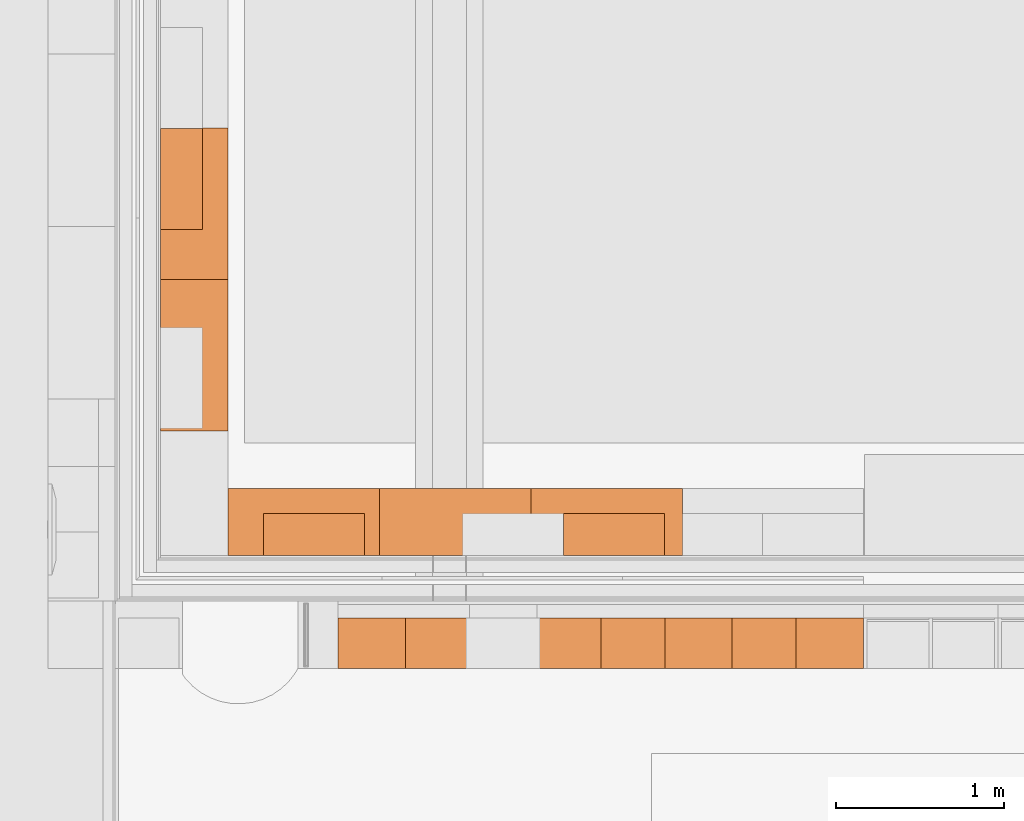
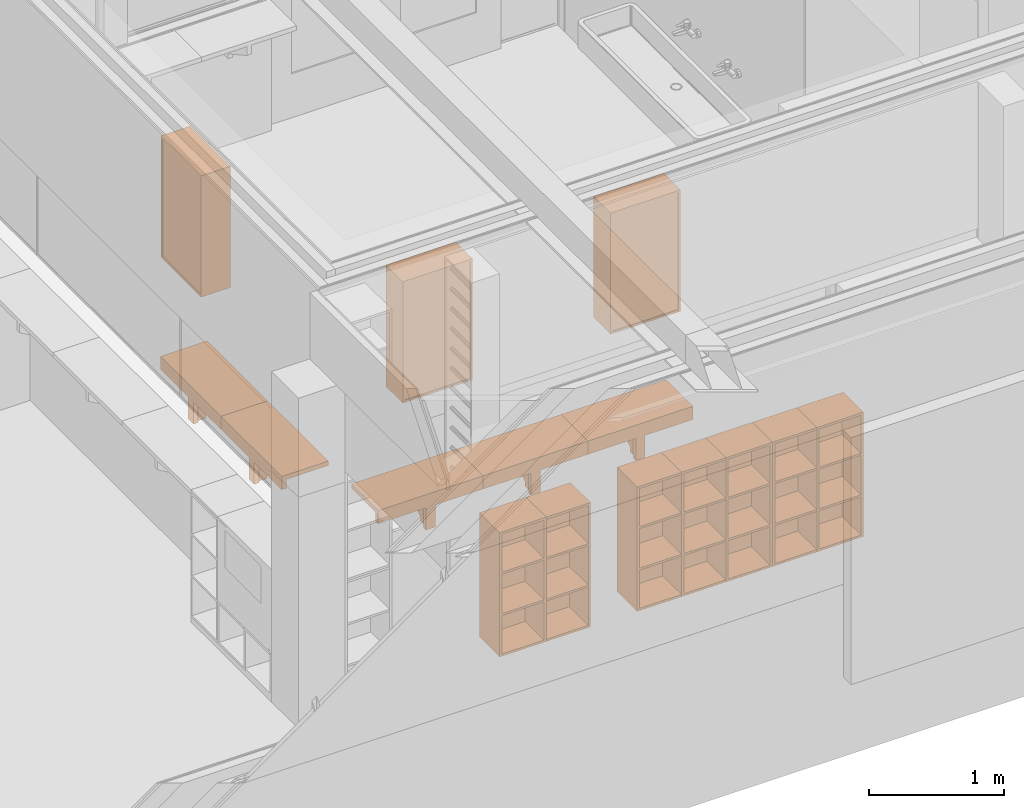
# One storey, part 116 of 137: 15 proxies.
"""IFC2X3 building model written with IfcOpenShell, lengths in millimetres."""

from ifc_helpers import new_model, entity, si_unit, converted_unit, derived_unit, money_unit, direction, frame, origin_with_axes, place, context, subcontext, project, spatial, faceted_brep, source, transform, mapped, type_object, type_shapes, element, save


model = new_model("IFC2X3")

# Units and contexts
model_context = context("Model", 3, precision=0.01, world=origin_with_axes(), true_north=direction((0.0, 1.0)))
body_context = subcontext(model_context, "Body", "Model", "MODEL_VIEW")
ifc_project = project(units=[si_unit("LENGTHUNIT", "METRE", prefix="MILLI"), si_unit("AREAUNIT", "SQUARE_METRE"), si_unit("VOLUMEUNIT", "CUBIC_METRE"), converted_unit("PLANEANGLEUNIT", "DEGREE", entity("IfcPlaneAngleMeasure", 0.0174532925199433), si_unit("PLANEANGLEUNIT", "RADIAN"), dimensions=[0, 0, 0, 0, 0, 0, 0]), money_unit("EUR"), converted_unit("TIMEUNIT", "Year", entity("IfcTimeMeasure", 31556926.0), si_unit("TIMEUNIT", "SECOND"), dimensions=[0, 0, 1, 0, 0, 0, 0]), si_unit("MASSUNIT", "GRAM", prefix="KILO"), si_unit("THERMODYNAMICTEMPERATUREUNIT", "DEGREE_CELSIUS"), si_unit("LUMINOUSINTENSITYUNIT", "LUMEN"), si_unit("ENERGYUNIT", "JOULE", prefix="MEGA"), derived_unit("THERMALCONDUCTANCEUNIT", [(si_unit("POWERUNIT", "WATT"), 1), (si_unit("LENGTHUNIT", "METRE"), -1), (si_unit("THERMODYNAMICTEMPERATUREUNIT", "KELVIN"), -1)]), derived_unit("SPECIFICHEATCAPACITYUNIT", [(si_unit("ENERGYUNIT", "JOULE"), 1), (si_unit("MASSUNIT", "GRAM", prefix="KILO"), -1), (si_unit("THERMODYNAMICTEMPERATUREUNIT", "KELVIN"), -1)]), derived_unit("MASSDENSITYUNIT", [(si_unit("MASSUNIT", "GRAM", prefix="KILO"), 1), (si_unit("VOLUMEUNIT", "CUBIC_METRE"), -1)])], contexts=[model_context])

# Site, building, storey
site_placement = place(None, origin_with_axes())
site = spatial("IfcSite", under=ifc_project, at=site_placement, Name="Site", CompositionType="ELEMENT")
building_placement = place(site_placement, origin_with_axes())
building = spatial("IfcBuilding", under=site, at=building_placement, Name="Naam gebouw", CompositionType="ELEMENT")
storey_placement = place(building_placement, frame((0.0, 0.0, 3960.0), z_axis=(0.0, 0.0, 1.0), x_axis=(1.0, 0.0, 0.0)))
storey = spatial("IfcBuildingStorey", under=building, at=storey_placement, Name="1e verdieping", CompositionType="ELEMENT", Elevation=3960.0)

# Proxies
building_element_proxy_type_1 = type_object("IfcBuildingElementProxyType", Name="Klaptafel wand 26", PredefinedType="NOTDEFINED")
shared_shape_1 = source(origin_with_axes(), body_context, "Body", "Brep", [
    faceted_brep([(470.0, 0.0, 620.0), (430.0, 0.0, 620.0), (430.0, 360.0000000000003, 620.0), (470.0, 360.0000000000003, 620.0), (470.0, 0.0, 700.0), (430.0, 0.0, 700.0), (430.0, 360.0000000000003, 700.0), (470.0, 360.0000000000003, 700.0)], [[[0, 1, 2, 3]], [[1, 0, 4, 5]], [[2, 1, 5, 6]], [[3, 2, 6, 7]], [[0, 3, 7, 4]], [[5, 4, 7, 6]]]),
    faceted_brep([(470.0, 280.0000000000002, 419.9999999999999), (430.0, 280.0000000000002, 419.9999999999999), (430.0, 360.0000000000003, 419.9999999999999), (470.0, 360.0000000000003, 419.9999999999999), (470.0, 280.0000000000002, 620.0), (430.0, 280.0000000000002, 620.0), (430.0, 360.0000000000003, 620.0), (470.0, 360.0000000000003, 620.0)], [[[0, 1, 2, 3]], [[1, 0, 4, 5]], [[2, 1, 5, 6]], [[3, 2, 6, 7]], [[0, 3, 7, 4]], [[5, 4, 7, 6]]]),
    faceted_brep([(430.0, 0.0, 620.0), (430.0, 280.0000000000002, 464.4444444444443), (470.0000000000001, 280.0000000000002, 464.4444444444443), (470.0, 0.0, 620.0), (430.0, 164.730082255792, 620.0), (430.0, 280.0000000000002, 555.9611568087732), (470.0000000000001, 280.0000000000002, 555.9611568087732), (470.0, 164.730082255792, 620.0)], [[[0, 1, 2, 3]], [[0, 4, 5, 1]], [[1, 5, 6, 2]], [[3, 2, 6, 7]], [[4, 0, 3, 7]], [[5, 4, 7, 6]]]),
    faceted_brep([(900.0, 0.0, 700.0), (0.0, 0.0, 700.0), (0.0, 320.0000000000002, 700.0), (900.0, 320.0000000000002, 700.0), (900.0, 0.0, 740.0), (0.0, 0.0, 740.0), (0.0, 320.0000000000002, 740.0), (900.0, 320.0000000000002, 740.0)], [[[0, 1, 2, 3]], [[1, 0, 4, 5]], [[2, 1, 5, 6]], [[3, 2, 6, 7]], [[0, 3, 7, 4]], [[5, 4, 7, 6]]]),
    faceted_brep([(900.0, 320.0000000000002, 700.0), (0.0, 320.0000000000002, 700.0), (0.0, 400.0000000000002, 700.0), (900.0, 400.0000000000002, 700.0), (900.0, 320.0000000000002, 740.0), (0.0, 320.0000000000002, 740.0), (0.0, 400.0000000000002, 740.0), (900.0, 400.0000000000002, 740.0)], [[[0, 1, 2, 3]], [[1, 0, 4, 5]], [[2, 1, 5, 6]], [[3, 2, 6, 7]], [[0, 3, 7, 4]], [[5, 4, 7, 6]]]),
    faceted_brep([(900.0, 360.0000000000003, 620.0), (0.0, 360.0000000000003, 620.0), (0.0, 400.0000000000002, 620.0), (900.0, 400.0000000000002, 620.0), (900.0, 360.0000000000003, 700.0), (0.0, 360.0000000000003, 700.0), (0.0, 400.0000000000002, 700.0), (900.0, 400.0000000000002, 700.0)], [[[0, 1, 2, 3]], [[1, 0, 4, 5]], [[2, 1, 5, 6]], [[3, 2, 6, 7]], [[0, 3, 7, 4]], [[5, 4, 7, 6]]]),
    faceted_brep([(490.0000000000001, 360.0000000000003, 419.9999999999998), (410.0000000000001, 360.0000000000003, 419.9999999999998), (410.0000000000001, 400.0000000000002, 419.9999999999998), (490.0000000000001, 400.0000000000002, 419.9999999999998), (490.0000000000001, 360.0000000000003, 619.9999999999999), (410.0000000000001, 360.0000000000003, 619.9999999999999), (410.0000000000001, 400.0000000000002, 619.9999999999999), (490.0000000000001, 400.0000000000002, 619.9999999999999)], [[[0, 1, 2, 3]], [[1, 0, 4, 5]], [[2, 1, 5, 6]], [[3, 2, 6, 7]], [[0, 3, 7, 4]], [[5, 4, 7, 6]]]),
])
for number, where, z_axis, x_axis in (
    (1, (16385.29342119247, 13915.0216103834, 459.9999999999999), (0.0, 0.0, 1.0), (-5.443940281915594e-05, 0.9999999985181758, 0.0)),
    (2, (16385.24442572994, 14815.02160904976, 459.9999999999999), (0.0, 0.0, 1.0), (-5.443940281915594e-05, 0.9999999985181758, 0.0)),
):
    element("IfcBuildingElementProxy", number, at=place(storey_placement, frame(where, z_axis=z_axis, x_axis=x_axis)), inside=storey, type_object=building_element_proxy_type_1, Name="_Leeg", context=body_context, shape_type="MappedRepresentation", body=[
        mapped(shared_shape_1, transform((0.0, 0.0, 0.0))),
    ])
shared_shape_2 = source(origin_with_axes(), body_context, "Body", "Brep", [
    faceted_brep([(-470.0, 0.0, 620.0), (-470.0, 360.0000000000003, 620.0), (-430.0, 360.0000000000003, 620.0), (-430.0, 0.0, 620.0), (-470.0, 0.0, 700.0), (-470.0, 360.0000000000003, 700.0), (-430.0, 360.0000000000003, 700.0), (-430.0, 0.0, 700.0)], [[[0, 1, 2, 3]], [[0, 4, 5, 1]], [[1, 5, 6, 2]], [[2, 6, 7, 3]], [[3, 7, 4, 0]], [[7, 6, 5, 4]]]),
    faceted_brep([(-470.0, 280.0000000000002, 419.9999999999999), (-470.0, 360.0000000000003, 419.9999999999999), (-430.0, 360.0000000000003, 419.9999999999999), (-430.0, 280.0000000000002, 419.9999999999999), (-470.0, 280.0000000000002, 620.0), (-470.0, 360.0000000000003, 620.0), (-430.0, 360.0000000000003, 620.0), (-430.0, 280.0000000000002, 620.0)], [[[0, 1, 2, 3]], [[0, 4, 5, 1]], [[1, 5, 6, 2]], [[2, 6, 7, 3]], [[3, 7, 4, 0]], [[7, 6, 5, 4]]]),
    faceted_brep([(-430.0, 0.0, 620.0), (-470.0, 0.0, 620.0), (-470.0000000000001, 280.0000000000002, 464.4444444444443), (-430.0, 280.0000000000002, 464.4444444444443), (-430.0, 164.730082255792, 620.0), (-470.0, 164.730082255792, 620.0), (-470.0000000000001, 280.0000000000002, 555.9611568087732), (-430.0, 280.0000000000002, 555.9611568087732)], [[[0, 1, 2, 3]], [[4, 5, 1, 0]], [[1, 5, 6, 2]], [[3, 2, 6, 7]], [[0, 3, 7, 4]], [[7, 6, 5, 4]]]),
    faceted_brep([(-900.0, 0.0, 700.0), (-900.0, 320.0000000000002, 700.0), (0.0, 320.0000000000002, 700.0), (0.0, 0.0, 700.0), (-900.0, 0.0, 740.0), (-900.0, 320.0000000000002, 740.0), (0.0, 320.0000000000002, 740.0), (0.0, 0.0, 740.0)], [[[0, 1, 2, 3]], [[0, 4, 5, 1]], [[1, 5, 6, 2]], [[2, 6, 7, 3]], [[3, 7, 4, 0]], [[7, 6, 5, 4]]]),
    faceted_brep([(-900.0, 320.0000000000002, 700.0), (-900.0, 400.0000000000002, 700.0), (0.0, 400.0000000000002, 700.0), (0.0, 320.0000000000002, 700.0), (-900.0, 320.0000000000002, 740.0), (-900.0, 400.0000000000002, 740.0), (0.0, 400.0000000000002, 740.0), (0.0, 320.0000000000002, 740.0)], [[[0, 1, 2, 3]], [[0, 4, 5, 1]], [[1, 5, 6, 2]], [[2, 6, 7, 3]], [[3, 7, 4, 0]], [[7, 6, 5, 4]]]),
    faceted_brep([(-900.0, 360.0000000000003, 620.0), (-900.0, 400.0000000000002, 620.0), (0.0, 400.0000000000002, 620.0), (0.0, 360.0000000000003, 620.0), (-900.0, 360.0000000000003, 700.0), (-900.0, 400.0000000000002, 700.0), (0.0, 400.0000000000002, 700.0), (0.0, 360.0000000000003, 700.0)], [[[0, 1, 2, 3]], [[0, 4, 5, 1]], [[1, 5, 6, 2]], [[2, 6, 7, 3]], [[3, 7, 4, 0]], [[7, 6, 5, 4]]]),
    faceted_brep([(-490.0000000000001, 360.0000000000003, 419.9999999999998), (-490.0000000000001, 400.0000000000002, 419.9999999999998), (-410.0000000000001, 400.0000000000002, 419.9999999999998), (-410.0000000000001, 360.0000000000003, 419.9999999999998), (-490.0000000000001, 360.0000000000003, 619.9999999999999), (-490.0000000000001, 400.0000000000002, 619.9999999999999), (-410.0000000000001, 400.0000000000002, 619.9999999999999), (-410.0000000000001, 360.0000000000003, 619.9999999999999)], [[[0, 1, 2, 3]], [[0, 4, 5, 1]], [[1, 5, 6, 2]], [[2, 6, 7, 3]], [[3, 7, 4, 0]], [[7, 6, 5, 4]]]),
])
type_shapes(building_element_proxy_type_1, [shared_shape_1, shared_shape_2])
for number, where, z_axis, x_axis in (
    (3, (17285.24442572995, 13574.99779706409, 459.9999999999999), (0.0, 0.0, 1.0), (-1.0, 0.0, 0.0)),
    (4, (18185.24442572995, 13574.99779706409, 459.9999999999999), (0.0, 0.0, 1.0), (-1.0, 0.0, 0.0)),
    (5, (16385.24442572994, 13574.99779706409, 459.9999999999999), (0.0, 0.0, 1.0), (-1.0, 0.0, 0.0)),
):
    element("IfcBuildingElementProxy", number, at=place(storey_placement, frame(where, z_axis=z_axis, x_axis=x_axis)), inside=storey, type_object=building_element_proxy_type_1, Name="_Leeg", context=body_context, shape_type="MappedRepresentation", body=[
        mapped(shared_shape_2, transform((0.0, 0.0, 0.0))),
    ])
building_element_proxy_type_2 = type_object("IfcBuildingElementProxyType", Name="Onderkast recht 26", PredefinedType="NOTDEFINED")
shared_shape_3 = source(origin_with_axes(), body_context, "Body", "Brep", [
    faceted_brep([(-18.0, -232.0, 541.0000000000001), (-18.0, -232.0, 559.0000000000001), (-581.9999999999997, -232.0, 559.0000000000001), (-581.9999999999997, -232.0, 541.0000000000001), (-18.0, -18.0, 541.0000000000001), (-18.0, -18.0, 559.0000000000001), (-581.9999999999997, -18.0, 559.0000000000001), (-581.9999999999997, -18.0, 541.0000000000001)], [[[0, 1, 2, 3]], [[4, 5, 1, 0]], [[1, 5, 6, 2]], [[3, 2, 6, 7]], [[0, 3, 7, 4]], [[7, 6, 5, 4]]]),
    faceted_brep([(-580.9999999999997, -250.0, 19.00000000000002), (-19.00000000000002, -250.0, 19.00000000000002), (-19.00000000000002, -249.9999999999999, 1081.0), (-580.9999999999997, -249.9999999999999, 1081.0), (-511.1907786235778, -250.0, 505.761783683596), (-508.9807621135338, -250.0, 510.501179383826), (-505.98133329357, -250.0, 514.7848076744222), (-502.2836282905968, -250.0, 518.4825126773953), (-498.0000000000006, -250.0, 521.481941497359), (-493.2606042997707, -250.0, 523.6919580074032), (-488.2094453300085, -250.0, 525.0454119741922), (-483.0000000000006, -250.0, 525.501179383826), (-477.7905546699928, -250.0, 525.0454119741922), (-472.7393957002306, -250.0, 523.6919580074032), (-468.0000000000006, -250.0, 521.4819414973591), (-463.7163717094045, -250.0, 518.4825126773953), (-460.0186667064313, -250.0, 514.7848076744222), (-457.0192378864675, -250.0, 510.501179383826), (-454.8092213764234, -250.0, 505.761783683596), (-453.4557674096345, -250.0, 500.7106247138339), (-453.0000000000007, -250.0, 495.501179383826), (-453.4557674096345, -250.0, 490.2917340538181), (-454.8092213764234, -250.0, 485.2405750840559), (-457.0192378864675, -250.0, 480.501179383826), (-460.0186667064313, -250.0, 476.2175510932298), (-463.7163717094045, -250.0, 472.5198460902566), (-468.0000000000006, -250.0, 469.5204172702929), (-472.7393957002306, -250.0, 467.3104007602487), (-477.7905546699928, -250.0, 465.9569467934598), (-483.0000000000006, -250.0, 465.501179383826), (-488.2094453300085, -250.0, 465.9569467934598), (-493.2606042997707, -250.0, 467.3104007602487), (-498.0000000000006, -250.0, 469.5204172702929), (-502.2836282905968, -250.0, 472.5198460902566), (-505.98133329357, -250.0, 476.2175510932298), (-508.9807621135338, -250.0, 480.501179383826), (-511.1907786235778, -250.0, 485.2405750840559), (-512.5442325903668, -250.0, 490.2917340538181), (-513.0000000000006, -250.0, 495.501179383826), (-512.5442325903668, -250.0, 500.7106247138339), (-580.9999999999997, -232.0, 19.00000000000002), (-19.00000000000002, -232.0, 19.00000000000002), (-19.00000000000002, -231.9999999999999, 1081.0), (-580.9999999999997, -231.9999999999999, 1081.0), (-508.9807621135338, -232.0, 510.501179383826), (-511.1907786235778, -232.0, 505.761783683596), (-505.98133329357, -232.0, 514.7848076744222), (-502.2836282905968, -232.0, 518.4825126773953), (-498.0000000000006, -232.0, 521.481941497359), (-493.2606042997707, -232.0, 523.6919580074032), (-488.2094453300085, -232.0, 525.0454119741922), (-483.0000000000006, -232.0, 525.501179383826), (-477.7905546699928, -232.0, 525.0454119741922), (-472.7393957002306, -232.0, 523.6919580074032), (-468.0000000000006, -232.0, 521.4819414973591), (-463.7163717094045, -232.0, 518.4825126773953), (-460.0186667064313, -232.0, 514.7848076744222), (-457.0192378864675, -232.0, 510.501179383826), (-454.8092213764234, -232.0, 505.761783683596), (-453.4557674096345, -232.0, 500.7106247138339), (-453.0000000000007, -232.0, 495.501179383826), (-453.4557674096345, -232.0, 490.2917340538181), (-454.8092213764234, -232.0, 485.2405750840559), (-457.0192378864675, -232.0, 480.501179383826), (-460.0186667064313, -232.0, 476.2175510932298), (-463.7163717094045, -232.0, 472.5198460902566), (-468.0000000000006, -232.0, 469.5204172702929), (-472.7393957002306, -232.0, 467.3104007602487), (-477.7905546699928, -232.0, 465.9569467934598), (-483.0000000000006, -232.0, 465.501179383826), (-488.2094453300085, -232.0, 465.9569467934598), (-493.2606042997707, -232.0, 467.3104007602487), (-498.0000000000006, -232.0, 469.5204172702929), (-502.2836282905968, -232.0, 472.5198460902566), (-505.98133329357, -232.0, 476.2175510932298), (-508.9807621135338, -232.0, 480.501179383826), (-511.1907786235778, -232.0, 485.2405750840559), (-512.5442325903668, -232.0, 490.2917340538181), (-513.0000000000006, -232.0, 495.501179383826), (-512.5442325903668, -232.0, 500.7106247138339)], [[[0, 1, 2, 3], [4, 5, 6, 7, 8, 9, 10, 11, 12, 13, 14, 15, 16, 17, 18, 19, 20, 21, 22, 23, 24, 25, 26, 27, 28, 29, 30, 31, 32, 33, 34, 35, 36, 37, 38, 39]], [[40, 41, 1, 0]], [[41, 42, 2, 1]], [[42, 43, 3, 2]], [[43, 40, 0, 3]], [[44, 5, 4, 45]], [[46, 6, 5, 44]], [[47, 7, 6, 46]], [[48, 8, 7, 47]], [[49, 9, 8, 48]], [[50, 10, 9, 49]], [[51, 11, 10, 50]], [[52, 12, 11, 51]], [[53, 13, 12, 52]], [[54, 14, 13, 53]], [[55, 15, 14, 54]], [[56, 16, 15, 55]], [[57, 17, 16, 56]], [[58, 18, 17, 57]], [[59, 19, 18, 58]], [[60, 20, 19, 59]], [[61, 21, 20, 60]], [[62, 22, 21, 61]], [[63, 23, 22, 62]], [[64, 24, 23, 63]], [[65, 25, 24, 64]], [[66, 26, 25, 65]], [[67, 27, 26, 66]], [[68, 28, 27, 67]], [[69, 29, 28, 68]], [[70, 30, 29, 69]], [[71, 31, 30, 70]], [[72, 32, 31, 71]], [[73, 33, 32, 72]], [[74, 34, 33, 73]], [[75, 35, 34, 74]], [[76, 36, 35, 75]], [[77, 37, 36, 76]], [[78, 38, 37, 77]], [[79, 39, 38, 78]], [[45, 4, 39, 79]], [[42, 41, 40, 43], [76, 75, 74, 73, 72, 71, 70, 69, 68, 67, 66, 65, 64, 63, 62, 61, 60, 59, 58, 57, 56, 55, 54, 53, 52, 51, 50, 49, 48, 47, 46, 44, 45, 79, 78, 77]]]),
    faceted_brep([(-18.0, -250.0, 0.0), (-18.0, -250.0, 18.0), (-581.9999999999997, -250.0, 18.0), (-581.9999999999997, -250.0, 0.0), (-18.0, 0.0, 0.0), (-18.0, 0.0, 18.0), (-581.9999999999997, 0.0, 18.0), (-581.9999999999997, 0.0, 0.0)], [[[0, 1, 2, 3]], [[4, 5, 1, 0]], [[1, 5, 6, 2]], [[3, 2, 6, 7]], [[0, 3, 7, 4]], [[7, 6, 5, 4]]]),
    faceted_brep([(-18.0, -250.0, 1082.0), (-18.0, -250.0, 1100.0), (-581.9999999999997, -250.0, 1100.0), (-581.9999999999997, -250.0, 1082.0), (-18.0, 0.0, 1082.0), (-18.0, 0.0, 1100.0), (-581.9999999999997, 0.0, 1100.0), (-581.9999999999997, 0.0, 1082.0)], [[[0, 1, 2, 3]], [[4, 5, 1, 0]], [[1, 5, 6, 2]], [[3, 2, 6, 7]], [[0, 3, 7, 4]], [[7, 6, 5, 4]]]),
    faceted_brep([(0.0, 0.0, 0.0), (0.0, 0.0, 1100.0), (0.0, -250.0, 1100.0), (0.0, -250.0, 0.0), (-18.0, 0.0, 0.0), (-18.0, 0.0, 1100.0), (-18.0, -250.0, 1100.0), (-18.0, -250.0, 0.0)], [[[0, 1, 2, 3]], [[4, 5, 1, 0]], [[1, 5, 6, 2]], [[3, 2, 6, 7]], [[0, 3, 7, 4]], [[7, 6, 5, 4]]]),
    faceted_brep([(-599.9999999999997, -250.0, 0.0), (-599.9999999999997, -250.0, 1100.0), (-599.9999999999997, 0.0, 1100.0), (-599.9999999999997, 0.0, 0.0), (-581.9999999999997, -250.0, 0.0), (-581.9999999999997, -250.0, 1100.0), (-581.9999999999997, 0.0, 1100.0), (-581.9999999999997, 0.0, 0.0)], [[[0, 1, 2, 3]], [[4, 5, 1, 0]], [[1, 5, 6, 2]], [[3, 2, 6, 7]], [[0, 3, 7, 4]], [[7, 6, 5, 4]]]),
    faceted_brep([(-581.9999999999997, -9.0, 18.0), (-581.9999999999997, -9.0, 1082.0), (-18.00000000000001, -9.0, 1082.0), (-18.00000000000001, -9.0, 18.0), (-581.9999999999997, -18.0, 18.0), (-581.9999999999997, -18.0, 1082.0), (-18.00000000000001, -18.0, 1082.0), (-18.00000000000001, -18.0, 18.0)], [[[0, 1, 2, 3]], [[4, 5, 1, 0]], [[1, 5, 6, 2]], [[3, 2, 6, 7]], [[0, 3, 7, 4]], [[7, 6, 5, 4]]]),
])
proxy_placement = place(storey_placement, frame((15984.99945960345, 15712.00727895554, 2100.000000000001), z_axis=(0.0, 0.0, 1.0), x_axis=(0.0, 1.0, 0.0)))
element("IfcBuildingElementProxy", 6, at=proxy_placement, inside=storey, type_object=building_element_proxy_type_2, Name="_Leeg", context=body_context, shape_type="MappedRepresentation", body=[
    mapped(shared_shape_3, transform((0.0, 0.0, 0.0))),
])
shared_shape_4 = source(origin_with_axes(), body_context, "Body", "Brep", [
    faceted_brep([(18.0, -232.0, 541.0000000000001), (581.9999999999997, -232.0, 541.0000000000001), (581.9999999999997, -232.0, 559.0000000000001), (18.0, -232.0, 559.0000000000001), (18.0, -18.0, 541.0000000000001), (581.9999999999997, -18.0, 541.0000000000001), (581.9999999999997, -18.0, 559.0000000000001), (18.0, -18.0, 559.0000000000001)], [[[0, 1, 2, 3]], [[0, 4, 5, 1]], [[1, 5, 6, 2]], [[3, 2, 6, 7]], [[4, 0, 3, 7]], [[5, 4, 7, 6]]]),
    faceted_brep([(580.9999999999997, -250.0, 19.00000000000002), (580.9999999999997, -249.9999999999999, 1081.0), (19.00000000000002, -249.9999999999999, 1081.0), (19.00000000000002, -250.0, 19.00000000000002), (511.1907786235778, -250.0, 505.761783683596), (512.5442325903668, -250.0, 500.7106247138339), (513.0000000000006, -250.0, 495.501179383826), (512.5442325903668, -250.0, 490.2917340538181), (511.1907786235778, -250.0, 485.2405750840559), (508.9807621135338, -250.0, 480.501179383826), (505.98133329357, -250.0, 476.2175510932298), (502.2836282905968, -250.0, 472.5198460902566), (498.0000000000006, -250.0, 469.5204172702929), (493.2606042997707, -250.0, 467.3104007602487), (488.2094453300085, -250.0, 465.9569467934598), (483.0000000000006, -250.0, 465.501179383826), (477.7905546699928, -250.0, 465.9569467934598), (472.7393957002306, -250.0, 467.3104007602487), (468.0000000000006, -250.0, 469.5204172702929), (463.7163717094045, -250.0, 472.5198460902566), (460.0186667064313, -250.0, 476.2175510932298), (457.0192378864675, -250.0, 480.501179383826), (454.8092213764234, -250.0, 485.2405750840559), (453.4557674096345, -250.0, 490.2917340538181), (453.0000000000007, -250.0, 495.501179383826), (453.4557674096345, -250.0, 500.7106247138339), (454.8092213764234, -250.0, 505.761783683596), (457.0192378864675, -250.0, 510.501179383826), (460.0186667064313, -250.0, 514.7848076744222), (463.7163717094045, -250.0, 518.4825126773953), (468.0000000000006, -250.0, 521.4819414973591), (472.7393957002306, -250.0, 523.6919580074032), (477.7905546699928, -250.0, 525.0454119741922), (483.0000000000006, -250.0, 525.501179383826), (488.2094453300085, -250.0, 525.0454119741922), (493.2606042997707, -250.0, 523.6919580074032), (498.0000000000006, -250.0, 521.481941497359), (502.2836282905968, -250.0, 518.4825126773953), (505.98133329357, -250.0, 514.7848076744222), (508.9807621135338, -250.0, 510.501179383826), (580.9999999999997, -231.9999999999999, 1081.0), (580.9999999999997, -232.0, 19.00000000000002), (19.00000000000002, -231.9999999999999, 1081.0), (19.00000000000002, -232.0, 19.00000000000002), (511.1907786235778, -232.0, 505.761783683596), (512.5442325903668, -232.0, 500.7106247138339), (513.0000000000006, -232.0, 495.501179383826), (512.5442325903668, -232.0, 490.2917340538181), (511.1907786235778, -232.0, 485.2405750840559), (508.9807621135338, -232.0, 480.501179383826), (505.98133329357, -232.0, 476.2175510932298), (502.2836282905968, -232.0, 472.5198460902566), (498.0000000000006, -232.0, 469.5204172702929), (493.2606042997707, -232.0, 467.3104007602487), (488.2094453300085, -232.0, 465.9569467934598), (483.0000000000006, -232.0, 465.501179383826), (477.7905546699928, -232.0, 465.9569467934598), (472.7393957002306, -232.0, 467.3104007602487), (468.0000000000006, -232.0, 469.5204172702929), (463.7163717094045, -232.0, 472.5198460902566), (460.0186667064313, -232.0, 476.2175510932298), (457.0192378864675, -232.0, 480.501179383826), (454.8092213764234, -232.0, 485.2405750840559), (453.4557674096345, -232.0, 490.2917340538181), (453.0000000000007, -232.0, 495.501179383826), (453.4557674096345, -232.0, 500.7106247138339), (454.8092213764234, -232.0, 505.761783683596), (457.0192378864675, -232.0, 510.501179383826), (460.0186667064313, -232.0, 514.7848076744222), (463.7163717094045, -232.0, 518.4825126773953), (468.0000000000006, -232.0, 521.4819414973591), (472.7393957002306, -232.0, 523.6919580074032), (477.7905546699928, -232.0, 525.0454119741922), (483.0000000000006, -232.0, 525.501179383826), (488.2094453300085, -232.0, 525.0454119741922), (493.2606042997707, -232.0, 523.6919580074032), (498.0000000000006, -232.0, 521.481941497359), (502.2836282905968, -232.0, 518.4825126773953), (505.98133329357, -232.0, 514.7848076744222), (508.9807621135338, -232.0, 510.501179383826)], [[[0, 1, 2, 3], [4, 5, 6, 7, 8, 9, 10, 11, 12, 13, 14, 15, 16, 17, 18, 19, 20, 21, 22, 23, 24, 25, 26, 27, 28, 29, 30, 31, 32, 33, 34, 35, 36, 37, 38, 39]], [[40, 1, 0, 41]], [[42, 2, 1, 40]], [[43, 3, 2, 42]], [[41, 0, 3, 43]], [[44, 45, 5, 4]], [[45, 46, 6, 5]], [[46, 47, 7, 6]], [[47, 48, 8, 7]], [[48, 49, 9, 8]], [[49, 50, 10, 9]], [[50, 51, 11, 10]], [[51, 52, 12, 11]], [[52, 53, 13, 12]], [[53, 54, 14, 13]], [[54, 55, 15, 14]], [[55, 56, 16, 15]], [[56, 57, 17, 16]], [[57, 58, 18, 17]], [[58, 59, 19, 18]], [[59, 60, 20, 19]], [[60, 61, 21, 20]], [[61, 62, 22, 21]], [[62, 63, 23, 22]], [[63, 64, 24, 23]], [[64, 65, 25, 24]], [[65, 66, 26, 25]], [[66, 67, 27, 26]], [[67, 68, 28, 27]], [[68, 69, 29, 28]], [[69, 70, 30, 29]], [[70, 71, 31, 30]], [[71, 72, 32, 31]], [[72, 73, 33, 32]], [[73, 74, 34, 33]], [[74, 75, 35, 34]], [[75, 76, 36, 35]], [[76, 77, 37, 36]], [[77, 78, 38, 37]], [[78, 79, 39, 38]], [[79, 44, 4, 39]], [[42, 40, 41, 43], [48, 47, 46, 45, 44, 79, 78, 77, 76, 75, 74, 73, 72, 71, 70, 69, 68, 67, 66, 65, 64, 63, 62, 61, 60, 59, 58, 57, 56, 55, 54, 53, 52, 51, 50, 49]]]),
    faceted_brep([(18.0, -250.0, 0.0), (581.9999999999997, -250.0, 0.0), (581.9999999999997, -250.0, 18.0), (18.0, -250.0, 18.0), (18.0, 0.0, 0.0), (581.9999999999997, 0.0, 0.0), (581.9999999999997, 0.0, 18.0), (18.0, 0.0, 18.0)], [[[0, 1, 2, 3]], [[0, 4, 5, 1]], [[1, 5, 6, 2]], [[3, 2, 6, 7]], [[4, 0, 3, 7]], [[5, 4, 7, 6]]]),
    faceted_brep([(18.0, -250.0, 1082.0), (581.9999999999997, -250.0, 1082.0), (581.9999999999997, -250.0, 1100.0), (18.0, -250.0, 1100.0), (18.0, 0.0, 1082.0), (581.9999999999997, 0.0, 1082.0), (581.9999999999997, 0.0, 1100.0), (18.0, 0.0, 1100.0)], [[[0, 1, 2, 3]], [[0, 4, 5, 1]], [[1, 5, 6, 2]], [[3, 2, 6, 7]], [[4, 0, 3, 7]], [[5, 4, 7, 6]]]),
    faceted_brep([(0.0, 0.0, 0.0), (0.0, -250.0, 0.0), (0.0, -250.0, 1100.0), (0.0, 0.0, 1100.0), (18.0, 0.0, 0.0), (18.0, -250.0, 0.0), (18.0, -250.0, 1100.0), (18.0, 0.0, 1100.0)], [[[0, 1, 2, 3]], [[0, 4, 5, 1]], [[1, 5, 6, 2]], [[3, 2, 6, 7]], [[4, 0, 3, 7]], [[5, 4, 7, 6]]]),
    faceted_brep([(599.9999999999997, -250.0, 0.0), (599.9999999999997, 0.0, 0.0), (599.9999999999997, 0.0, 1100.0), (599.9999999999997, -250.0, 1100.0), (581.9999999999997, -250.0, 0.0), (581.9999999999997, 0.0, 0.0), (581.9999999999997, 0.0, 1100.0), (581.9999999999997, -250.0, 1100.0)], [[[0, 1, 2, 3]], [[0, 4, 5, 1]], [[1, 5, 6, 2]], [[3, 2, 6, 7]], [[4, 0, 3, 7]], [[5, 4, 7, 6]]]),
    faceted_brep([(581.9999999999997, -9.0, 18.0), (18.00000000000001, -9.0, 18.0), (18.00000000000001, -9.0, 1082.0), (581.9999999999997, -9.0, 1082.0), (581.9999999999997, -18.0, 18.0), (18.00000000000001, -18.0, 18.0), (18.00000000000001, -18.0, 1082.0), (581.9999999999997, -18.0, 1082.0)], [[[0, 1, 2, 3]], [[0, 4, 5, 1]], [[1, 5, 6, 2]], [[3, 2, 6, 7]], [[4, 0, 3, 7]], [[5, 4, 7, 6]]]),
])
for number, where, z_axis, x_axis in (
    (7, (17196.00661817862, 13174.99778166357, 2100.000000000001), (0.0, 0.0, 1.0), (-1.0, 0.0, 0.0)),
    (8, (18978.00661817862, 13174.99778166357, 2100.000000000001), (0.0, 0.0, 1.0), (-1.0, 0.0, 0.0)),
):
    element("IfcBuildingElementProxy", number, at=place(storey_placement, frame(where, z_axis=z_axis, x_axis=x_axis)), inside=storey, type_object=building_element_proxy_type_2, Name="_Leeg", context=body_context, shape_type="MappedRepresentation", body=[
        mapped(shared_shape_4, transform((0.0, 0.0, 0.0))),
    ])
shared_shape_5 = source(origin_with_axes(), body_context, "Body", "Brep", [
    faceted_brep([(-20.0, -300.0, 366.6666666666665), (-20.0, -300.0, 384.6666666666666), (-379.9999999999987, -300.0, 384.6666666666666), (-379.9999999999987, -300.0, 366.6666666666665), (-20.0, -20.0, 366.6666666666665), (-20.0, -20.0, 384.6666666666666), (-379.9999999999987, -20.0, 384.6666666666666), (-379.9999999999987, -20.0, 366.6666666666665)], [[[0, 1, 2, 3]], [[4, 5, 1, 0]], [[1, 5, 6, 2]], [[3, 2, 6, 7]], [[0, 3, 7, 4]], [[7, 6, 5, 4]]]),
    faceted_brep([(-20.0, -300.0, 743.3333333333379), (-20.0, -300.0, 761.3333333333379), (-379.9999999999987, -300.0, 761.3333333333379), (-379.9999999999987, -300.0, 743.3333333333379), (-20.0, -20.0, 743.3333333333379), (-20.0, -20.0, 761.3333333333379), (-379.9999999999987, -20.0, 761.3333333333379), (-379.9999999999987, -20.0, 743.3333333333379)], [[[0, 1, 2, 3]], [[4, 5, 1, 0]], [[1, 5, 6, 2]], [[3, 2, 6, 7]], [[0, 3, 7, 4]], [[7, 6, 5, 4]]]),
    faceted_brep([(-20.0, -300.0, 0.0), (-20.0, -300.0, 20.0), (-379.9999999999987, -300.0, 20.0), (-379.9999999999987, -300.0, 0.0), (-20.0, 0.0, 0.0), (-20.0, 0.0, 20.0), (-379.9999999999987, 0.0, 20.0), (-379.9999999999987, 0.0, 0.0)], [[[0, 1, 2, 3]], [[4, 5, 1, 0]], [[1, 5, 6, 2]], [[3, 2, 6, 7]], [[0, 3, 7, 4]], [[7, 6, 5, 4]]]),
    faceted_brep([(-20.0, -300.0, 1107.0), (-20.0, -300.0, 1127.0), (-379.9999999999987, -300.0, 1127.0), (-379.9999999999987, -300.0, 1107.0), (-20.0, 0.0, 1107.0), (-20.0, 0.0, 1127.0), (-379.9999999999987, 0.0, 1127.0), (-379.9999999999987, 0.0, 1107.0)], [[[0, 1, 2, 3]], [[4, 5, 1, 0]], [[1, 5, 6, 2]], [[3, 2, 6, 7]], [[0, 3, 7, 4]], [[7, 6, 5, 4]]]),
    faceted_brep([(0.0, 0.0, 0.0), (0.0, 0.0, 1127.0), (0.0, -300.0, 1127.0), (0.0, -300.0, 0.0), (-20.0, 0.0, 0.0), (-20.0, 0.0, 1127.0), (-20.0, -300.0, 1127.0), (-20.0, -300.0, 0.0)], [[[0, 1, 2, 3]], [[4, 5, 1, 0]], [[1, 5, 6, 2]], [[3, 2, 6, 7]], [[0, 3, 7, 4]], [[7, 6, 5, 4]]]),
    faceted_brep([(-399.9999999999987, -300.0, 0.0), (-399.9999999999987, -300.0, 1127.0), (-399.9999999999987, 0.0, 1127.0), (-399.9999999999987, 0.0, 0.0), (-379.9999999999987, -300.0, 0.0), (-379.9999999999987, -300.0, 1127.0), (-379.9999999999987, 0.0, 1127.0), (-379.9999999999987, 0.0, 0.0)], [[[0, 1, 2, 3]], [[4, 5, 1, 0]], [[1, 5, 6, 2]], [[3, 2, 6, 7]], [[0, 3, 7, 4]], [[7, 6, 5, 4]]]),
    faceted_brep([(-379.9999999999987, -10.0, 20.0), (-379.9999999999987, -10.0, 1107.0), (-20.00000000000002, -10.0, 1107.0), (-20.00000000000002, -10.0, 20.0), (-379.9999999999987, -20.0, 20.0), (-379.9999999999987, -20.0, 1107.0), (-20.00000000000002, -20.0, 1107.0), (-20.00000000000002, -20.0, 20.0)], [[[0, 1, 2, 3]], [[4, 5, 1, 0]], [[1, 5, 6, 2]], [[3, 2, 6, 7]], [[0, 3, 7, 4]], [[7, 6, 5, 4]]]),
])
type_shapes(building_element_proxy_type_2, [shared_shape_3, shared_shape_4, shared_shape_5])
for number, where, z_axis, x_axis in (
    (9, (18620.00661817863, 12804.99778166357, 49.99999999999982), (0.0, 0.0, 1.0), (1.0, 0.0, 0.0)),
    (10, (17820.00661817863, 12804.99778166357, 49.99999999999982), (0.0, 0.0, 1.0), (1.0, 0.0, 0.0)),
    (11, (19000.00661817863, 12804.99778166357, 49.99999999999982), (0.0, 0.0, 1.0), (1.0, 0.0, 0.0)),
    (12, (17440.00661817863, 12804.99778166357, 49.99999999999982), (0.0, 0.0, 1.0), (1.0, 0.0, 0.0)),
    (13, (19780.00661817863, 12804.99778166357, 49.99999999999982), (0.0, 0.0, 1.0), (1.0, 0.0, 0.0)),
    (14, (19380.00661817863, 12804.99778166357, 49.99999999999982), (0.0, 0.0, 1.0), (1.0, 0.0, 0.0)),
    (15, (20160.00661817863, 12804.99778166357, 49.99999999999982), (0.0, 0.0, 1.0), (1.0, 0.0, 0.0)),
):
    element("IfcBuildingElementProxy", number, at=place(storey_placement, frame(where, z_axis=z_axis, x_axis=x_axis)), inside=storey, type_object=building_element_proxy_type_2, Name="_Leeg", context=body_context, shape_type="MappedRepresentation", body=[
        mapped(shared_shape_5, transform((0.0, 0.0, 0.0))),
    ])

save(model, "model.ifc")
